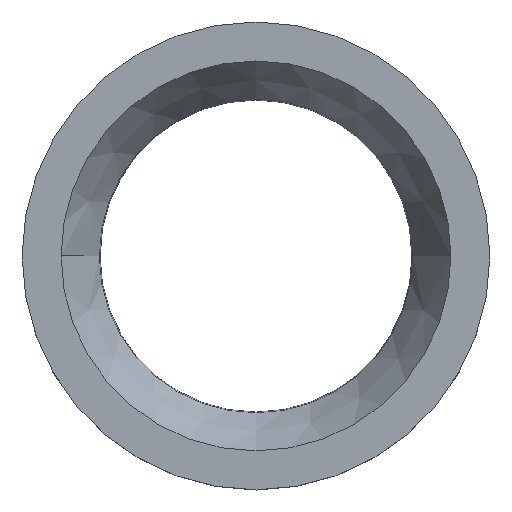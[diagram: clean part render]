
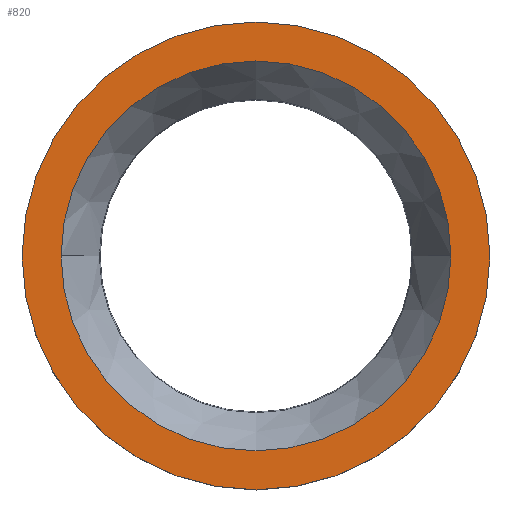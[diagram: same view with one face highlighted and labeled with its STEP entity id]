
A CAD part, top view. The second image highlights one B-rep face of the part: STEP entity #820.
In plain terms, the highlighted planar face has unit normal (0, 0, 1).
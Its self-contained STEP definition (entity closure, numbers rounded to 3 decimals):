
#125=CARTESIAN_POINT('',(0.,0.,22.));
#126=DIRECTION('',(0.,0.,1.));
#127=DIRECTION('',(1.,0.,0.));
#128=AXIS2_PLACEMENT_3D('',#125,#126,#127);
#130=CARTESIAN_POINT('',(0.,0.,22.));
#131=DIRECTION('',(0.,0.,1.));
#132=DIRECTION('',(-1.,0.,0.));
#133=AXIS2_PLACEMENT_3D('',#130,#131,#132);
#135=CARTESIAN_POINT('',(0.,0.,22.));
#136=DIRECTION('',(0.,0.,-1.));
#137=DIRECTION('',(1.,0.,0.));
#138=AXIS2_PLACEMENT_3D('',#135,#136,#137);
#140=CARTESIAN_POINT('',(0.,0.,22.));
#141=DIRECTION('',(0.,0.,-1.));
#142=DIRECTION('',(-1.,0.,0.));
#143=AXIS2_PLACEMENT_3D('',#140,#141,#142);
#515=CARTESIAN_POINT('',(60.,0.,22.));
#516=CARTESIAN_POINT('',(-60.,0.,22.));
#517=VERTEX_POINT('',#515);
#518=VERTEX_POINT('',#516);
#519=CARTESIAN_POINT('',(50.,0.,
22.));
#520=CARTESIAN_POINT('',(-50.,0.,22.));
#521=VERTEX_POINT('',#519);
#522=VERTEX_POINT('',#520);
#805=CARTESIAN_POINT('',(0.,0.,22.));
#806=DIRECTION('',(0.,0.,1.));
#807=DIRECTION('',(1.,0.,0.));
#808=AXIS2_PLACEMENT_3D('',#805,#806,#807);
#809=PLANE('',#808);
#811=ORIENTED_EDGE('',*,*,#810,.F.);
#813=ORIENTED_EDGE('',*,*,#812,.F.);
#814=EDGE_LOOP('',(#811,#813));
#815=FACE_OUTER_BOUND('',#814,.F.);
#816=ORIENTED_EDGE('',*,*,#785,.F.);
#817=ORIENTED_EDGE('',*,*,#799,.F.);
#818=EDGE_LOOP('',(#816,#817));
#819=FACE_BOUND('',#818,.F.);
#129=CIRCLE('',#128,60.);
#134=CIRCLE('',#133,60.);
#139=CIRCLE('',#138,50.);
#144=CIRCLE('',#143,50.);
#785=EDGE_CURVE('',#521,#522,#139,.T.);
#799=EDGE_CURVE('',#522,#521,#144,.T.);
#810=EDGE_CURVE('',#517,#518,#129,.T.);
#812=EDGE_CURVE('',#518,#517,#134,.T.);
#820=ADVANCED_FACE('',(#815,#819),#809,.T.);
